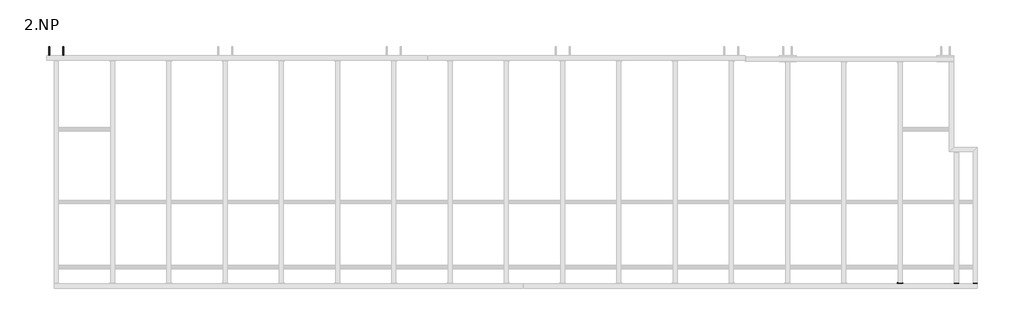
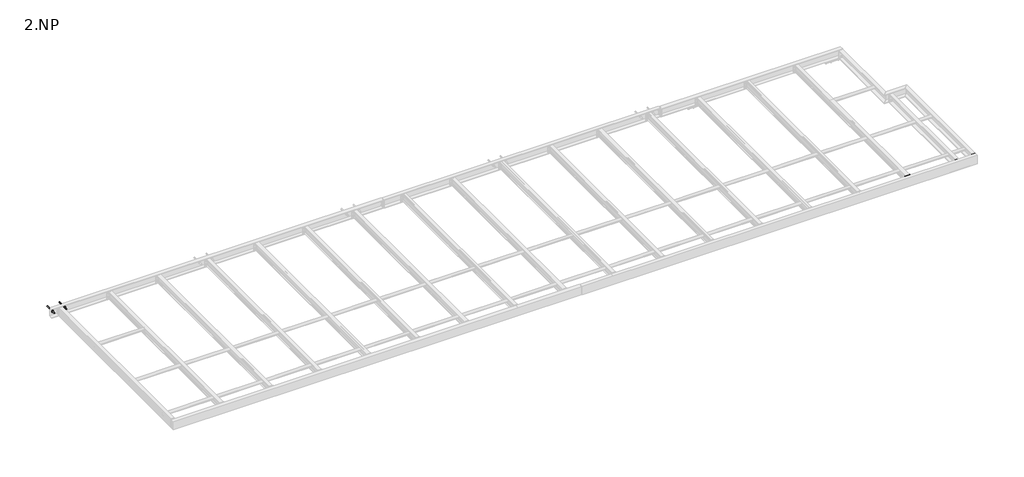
# One storey, part 8 of 18: 14 proxies.
"""IFC4 building model written with IfcOpenShell, lengths in millimetres."""

from ifc_helpers import new_model, si_unit, point, frame, frame_2d, origin, place, context, project, spatial, polyline, circle_curve, trimmed, segment, composite_curve, outline, extrude, element, save

model = new_model("IFC4")

# Units and contexts
model_context = context("Model", 3, world=origin())
ifc_project = project(units=[si_unit("LENGTHUNIT", "METRE", prefix="MILLI")], contexts=[model_context])

# Site, building, storey
site = spatial("IfcSite", under=ifc_project)
building = spatial("IfcBuilding", under=site)
storey = spatial("IfcBuildingStorey", under=building, Name="2.NP", Elevation=3000.0)

# Proxies
placement = place(None, origin())
element("IfcBuildingElementProxy", 1, Name="PLECH", ObjectType="PLECH", at=placement, inside=storey, context=model_context, shape_type="SweptSolid", body=[
    extrude(outline(polyline([(15000.0, -180.0), (15100.0, -180.0), (15100.0, -190.0), (15000.0, -190.0), (15000.0, -180.0)])), frame((0.0, 0.0, 3166.5), z_axis=(0.0, 0.0, 1.0), x_axis=(1.0, 0.0, 0.0)), (0.0, 0.0, 1.0), 127.0),
])
element("IfcBuildingElementProxy", 2, Name="PLECH", ObjectType="PLECH", at=placement, inside=storey, context=model_context, shape_type="SweptSolid", body=[
    extrude(outline(polyline([(16015.0, -180.0), (16090.0, -180.0), (16090.0, -190.0), (16015.0, -190.0), (16015.0, -180.0)])), frame((0.0, 0.0, 3130.0), z_axis=(0.0, 0.0, 1.0), x_axis=(1.0, 0.0, 0.0)), (0.0, 0.0, 1.0), 160.0),
])
element("IfcBuildingElementProxy", 3, Name="PLECH", ObjectType="PLECH", at=placement, inside=storey, context=model_context, shape_type="SweptSolid", body=[
    extrude(outline(polyline([(16350.0, -180.0), (16425.0, -180.0), (16425.0, -190.0), (16350.0, -190.0), (16350.0, -180.0)])), frame((0.0, 0.0, 3130.0), z_axis=(0.0, 0.0, 1.0), x_axis=(1.0, 0.0, 0.0)), (0.0, 0.0, 1.0), 160.0),
])
element("IfcBuildingElementProxy", 4, Name="PLECH", ObjectType="PLECH", at=placement, inside=storey, context=model_context, shape_type="SweptSolid", body=[
    extrude(outline(polyline([(15000.0, -190.0), (15100.0, -190.0), (15100.0, -200.0), (15000.0, -200.0), (15000.0, -190.0)])), frame((0.0, 0.0, 3127.5), z_axis=(0.0, 0.0, 1.0), x_axis=(1.0, 0.0, 0.0)), (0.0, 0.0, 1.0), 166.0000153),
])
element("IfcBuildingElementProxy", 5, Name="PLECH", ObjectType="PLECH", at=placement, inside=storey, context=model_context, shape_type="SweptSolid", body=[
    extrude(outline(composite_curve([segment(polyline([(-200.0, 3289.5), (-200.0, 3130.5), (-249.5, 3130.5)]), True, "CONTINUOUS"), segment(trimmed(circle_curve(frame_2d((-269.5, 3130.5)), 20.0), [point((-249.5, 3130.5))], [point((-269.5, 3150.5))], True, "CARTESIAN"), True, "CONTINUOUS"), segment(polyline([(-269.5, 3150.5), (-269.5, 3269.5)]), True, "CONTINUOUS"), segment(trimmed(circle_curve(frame_2d((-269.5, 3289.5)), 20.0), [point((-269.5, 3269.5))], [point((-249.5, 3289.5))], True, "CARTESIAN"), True, "CONTINUOUS"), segment(polyline([(-249.5, 3289.5), (-200.0, 3289.5)]), True, "CONTINUOUS")], self_intersect=False)), frame((15046.0, 0.0, 0.0), z_axis=(1.0, 0.0, 0.0), x_axis=(0.0, 1.0, 0.0)), (0.0, 0.0, 1.0), 8.0),
])
element("IfcBuildingElementProxy", 6, Name="PLECH", ObjectType="PLECH", at=placement, inside=storey, context=model_context, shape_type="SweptSolid", body=[
    extrude(outline(polyline([(16015.0, -190.0), (16090.0, -190.0), (16090.0, -200.0), (16015.0, -200.0), (16015.0, -190.0)])), frame((0.0, 0.0, 3130.0), z_axis=(0.0, 0.0, 1.0), x_axis=(1.0, 0.0, 0.0)), (0.0, 0.0, 1.0), 160.0),
])
element("IfcBuildingElementProxy", 7, Name="PLECH", ObjectType="PLECH", at=placement, inside=storey, context=model_context, shape_type="SweptSolid", body=[
    extrude(outline(composite_curve([segment(polyline([(-200.0, 3289.5), (-200.0, 3130.5), (-249.5, 3130.5)]), True, "CONTINUOUS"), segment(trimmed(circle_curve(frame_2d((-269.5, 3130.5)), 20.0), [point((-249.5, 3130.5))], [point((-269.5, 3150.5))], True, "CARTESIAN"), True, "CONTINUOUS"), segment(polyline([(-269.5, 3150.5), (-269.5, 3269.5)]), True, "CONTINUOUS"), segment(trimmed(circle_curve(frame_2d((-269.5, 3289.5)), 20.0), [point((-269.5, 3269.5))], [point((-249.5, 3289.5))], True, "CARTESIAN"), True, "CONTINUOUS"), segment(polyline([(-249.5, 3289.5), (-200.0, 3289.5)]), True, "CONTINUOUS")], self_intersect=False)), frame((16076.5, 0.0, 0.0), z_axis=(1.0, 0.0, 0.0), x_axis=(0.0, 1.0, 0.0)), (0.0, 0.0, 1.0), 8.0),
])
element("IfcBuildingElementProxy", 8, Name="PLECH", ObjectType="PLECH", at=placement, inside=storey, context=model_context, shape_type="SweptSolid", body=[
    extrude(outline(polyline([(16350.0, -190.0), (16425.0, -190.0), (16425.0, -200.0), (16350.0, -200.0), (16350.0, -190.0)])), frame((0.0, 0.0, 3130.0), z_axis=(0.0, 0.0, 1.0), x_axis=(1.0, 0.0, 0.0)), (0.0, 0.0, 1.0), 160.0),
])
element("IfcBuildingElementProxy", 9, Name="PLECH", ObjectType="PLECH", at=placement, inside=storey, context=model_context, shape_type="SweptSolid", body=[
    extrude(outline(composite_curve([segment(polyline([(-200.0, 3289.5), (-200.0, 3130.5), (-249.5, 3130.5)]), True, "CONTINUOUS"), segment(trimmed(circle_curve(frame_2d((-269.5, 3130.5)), 20.0), [point((-249.5, 3130.5))], [point((-269.5, 3150.5))], True, "CARTESIAN"), True, "CONTINUOUS"), segment(polyline([(-269.5, 3150.5), (-269.5, 3269.5)]), True, "CONTINUOUS"), segment(trimmed(circle_curve(frame_2d((-269.5, 3289.5)), 20.0), [point((-269.5, 3269.5))], [point((-249.5, 3289.5))], True, "CARTESIAN"), True, "CONTINUOUS"), segment(polyline([(-249.5, 3289.5), (-200.0, 3289.5)]), True, "CONTINUOUS")], self_intersect=False)), frame((16411.5, 0.0, 0.0), z_axis=(1.0, 0.0, 0.0), x_axis=(0.0, 1.0, 0.0)), (0.0, 0.0, 1.0), 8.0),
])
element("IfcBuildingElementProxy", 10, Name="Bolt assembly", ObjectType="Bolt assembly", at=placement, inside=storey, context=model_context, shape_type="SweptSolid", body=[
    extrude(outline(polyline([(3210.0, -65.1850454), (3218.5, -70.0925227), (3218.5, -79.9074773), (3210.0, -84.8149546), (3201.5, -79.9074773), (3201.5, -70.0925227), (3210.0, -65.1850454)])), frame((0.0, 3860.0, 0.0), z_axis=(0.0, 1.0, 0.0), x_axis=(0.0, 0.0, 1.0)), (0.0, 0.0, 1.0), 168.0),
    extrude(outline(composite_curve([segment(trimmed(circle_curve(frame_2d((3210.0, -75.0)), 10.0), [point((3210.0, -65.0))], [point((3210.0, -85.0))], False, "CARTESIAN"), True, "CONTINUOUS"), segment(trimmed(circle_curve(frame_2d((3210.0, -75.0)), 10.0), [point((3210.0, -85.0))], [point((3210.0, -65.0))], False, "CARTESIAN"), True, "CONTINUOUS")], self_intersect=False)), frame((0.0, 3788.0, 0.0), z_axis=(0.0, 1.0, 0.0), x_axis=(0.0, 0.0, 1.0)), (0.0, 0.0, 1.0), 72.0),
    extrude(outline(composite_curve([segment(trimmed(circle_curve(frame_2d((3210.0, -75.0)), 18.5), [point((3210.0, -56.5))], [point((3210.0, -93.5))], False, "CARTESIAN"), True, "CONTINUOUS"), segment(trimmed(circle_curve(frame_2d((3210.0, -75.0)), 18.5), [point((3210.0, -93.5))], [point((3210.0, -56.5))], False, "CARTESIAN"), True, "CONTINUOUS")], self_intersect=False)), frame((0.0, 3851.5, 0.0), z_axis=(0.0, 1.0, 0.0), x_axis=(0.0, 0.0, 1.0)), (0.0, 0.0, 1.0), 3.0),
    extrude(outline(polyline([(3210.0, -57.6794919), (3225.0, -66.339746), (3225.0, -83.660254), (3210.0, -92.3205081), (3195.0, -83.660254), (3195.0, -66.339746), (3210.0, -57.6794919)])), frame((0.0, 3835.5, 0.0), z_axis=(0.0, 1.0, 0.0), x_axis=(0.0, 0.0, 1.0)), (0.0, 0.0, 1.0), 16.0),
    extrude(outline(composite_curve([segment(trimmed(circle_curve(frame_2d((3210.0, -75.0)), 11.0), [point((3210.0, -64.0))], [point((3210.0, -86.0))], False, "CARTESIAN"), True, "CONTINUOUS"), segment(trimmed(circle_curve(frame_2d((3210.0, -75.0)), 11.0), [point((3210.0, -86.0))], [point((3210.0, -64.0))], False, "CARTESIAN"), True, "CONTINUOUS")], self_intersect=False)), frame((0.0, 3854.4, 0.0), z_axis=(0.0, 1.0, 0.0), x_axis=(0.0, 0.0, 1.0)), (0.0, 0.0, 1.0), 5.6),
    extrude(outline(polyline([(3210.0, 184.8149546), (3218.5, 179.9074773), (3218.5, 170.0925227), (3210.0, 165.1850454), (3201.5, 170.0925227), (3201.5, 179.9074773), (3210.0, 184.8149546)])), frame((0.0, 3860.0, 0.0), z_axis=(0.0, 1.0, 0.0), x_axis=(0.0, 0.0, 1.0)), (0.0, 0.0, 1.0), 168.0),
    extrude(outline(composite_curve([segment(trimmed(circle_curve(frame_2d((3210.0, 175.0)), 10.0), [point((3210.0, 185.0))], [point((3210.0, 165.0))], False, "CARTESIAN"), True, "CONTINUOUS"), segment(trimmed(circle_curve(frame_2d((3210.0, 175.0)), 10.0), [point((3210.0, 165.0))], [point((3210.0, 185.0))], False, "CARTESIAN"), True, "CONTINUOUS")], self_intersect=False)), frame((0.0, 3788.0, 0.0), z_axis=(0.0, 1.0, 0.0), x_axis=(0.0, 0.0, 1.0)), (0.0, 0.0, 1.0), 72.0),
    extrude(outline(composite_curve([segment(trimmed(circle_curve(frame_2d((3210.0, 175.0)), 18.5), [point((3210.0, 193.5))], [point((3210.0, 156.5))], False, "CARTESIAN"), True, "CONTINUOUS"), segment(trimmed(circle_curve(frame_2d((3210.0, 175.0)), 18.5), [point((3210.0, 156.5))], [point((3210.0, 193.5))], False, "CARTESIAN"), True, "CONTINUOUS")], self_intersect=False)), frame((0.0, 3851.5, 0.0), z_axis=(0.0, 1.0, 0.0), x_axis=(0.0, 0.0, 1.0)), (0.0, 0.0, 1.0), 3.0),
    extrude(outline(polyline([(3210.0, 192.3205081), (3225.0, 183.660254), (3225.0, 166.339746), (3210.0, 157.6794919), (3195.0, 166.339746), (3195.0, 183.660254), (3210.0, 192.3205081)])), frame((0.0, 3835.5, 0.0), z_axis=(0.0, 1.0, 0.0), x_axis=(0.0, 0.0, 1.0)), (0.0, 0.0, 1.0), 16.0),
    extrude(outline(composite_curve([segment(trimmed(circle_curve(frame_2d((3210.0, 175.0)), 11.0), [point((3210.0, 186.0))], [point((3210.0, 164.0))], False, "CARTESIAN"), True, "CONTINUOUS"), segment(trimmed(circle_curve(frame_2d((3210.0, 175.0)), 11.0), [point((3210.0, 164.0))], [point((3210.0, 186.0))], False, "CARTESIAN"), True, "CONTINUOUS")], self_intersect=False)), frame((0.0, 3854.4, 0.0), z_axis=(0.0, 1.0, 0.0), x_axis=(0.0, 0.0, 1.0)), (0.0, 0.0, 1.0), 5.6),
])
element("IfcBuildingElementProxy", 11, Name="Bolt assembly", ObjectType="Bolt assembly", at=placement, inside=storey, context=model_context, shape_type="SweptSolid", body=[
    extrude(outline(composite_curve([segment(trimmed(circle_curve(frame_2d((3260.0, 15020.0)), 6.5), [point((3260.0, 15026.5))], [point((3260.0, 15013.5))], False, "CARTESIAN"), True, "CONTINUOUS"), segment(trimmed(circle_curve(frame_2d((3260.0, 15020.0)), 6.5), [point((3260.0, 15013.5))], [point((3260.0, 15026.5))], False, "CARTESIAN"), True, "CONTINUOUS")], self_intersect=False)), frame((0.0, -199.9, 0.0), z_axis=(0.0, 1.0, 0.0), x_axis=(0.0, 0.0, 1.0)), (0.0, 0.0, 1.0), 10.0),
    extrude(outline(polyline([(3260.0, 15030.9696551), (3269.5, 15025.4848276), (3269.5, 15014.5151724), (3260.0, 15009.0303449), (3250.5, 15014.5151724), (3250.5, 15025.4848276), (3260.0, 15030.9696551)])), frame((0.0, -210.0, 0.0), z_axis=(0.0, 1.0, 0.0), x_axis=(0.0, 0.0, 1.0)), (0.0, 0.0, 1.0), 7.5),
    extrude(outline(composite_curve([segment(trimmed(circle_curve(frame_2d((3260.0, 15020.0)), 6.0), [point((3260.0, 15026.0))], [point((3260.0, 15014.0))], False, "CARTESIAN"), True, "CONTINUOUS"), segment(trimmed(circle_curve(frame_2d((3260.0, 15020.0)), 6.0), [point((3260.0, 15014.0))], [point((3260.0, 15026.0))], False, "CARTESIAN"), True, "CONTINUOUS")], self_intersect=False)), frame((0.0, -202.5, 0.0), z_axis=(0.0, 1.0, 0.0), x_axis=(0.0, 0.0, 1.0)), (0.0, 0.0, 1.0), 40.0),
    extrude(outline(composite_curve([segment(trimmed(circle_curve(frame_2d((3260.0, 15020.0)), 12.0), [point((3260.0, 15032.0))], [point((3260.0, 15008.0))], False, "CARTESIAN"), True, "CONTINUOUS"), segment(trimmed(circle_curve(frame_2d((3260.0, 15020.0)), 12.0), [point((3260.0, 15008.0))], [point((3260.0, 15032.0))], False, "CARTESIAN"), True, "CONTINUOUS")], self_intersect=False)), frame((0.0, -202.5, 0.0), z_axis=(0.0, 1.0, 0.0), x_axis=(0.0, 0.0, 1.0)), (0.0, 0.0, 1.0), 2.5),
    extrude(outline(composite_curve([segment(trimmed(circle_curve(frame_2d((3260.0, 15020.0)), 12.0), [point((3260.0, 15032.0))], [point((3260.0, 15008.0))], False, "CARTESIAN"), True, "CONTINUOUS"), segment(trimmed(circle_curve(frame_2d((3260.0, 15020.0)), 12.0), [point((3260.0, 15008.0))], [point((3260.0, 15032.0))], False, "CARTESIAN"), True, "CONTINUOUS")], self_intersect=False)), frame((0.0, -180.0, 0.0), z_axis=(0.0, 1.0, 0.0), x_axis=(0.0, 0.0, 1.0)), (0.0, 0.0, 1.0), 2.5),
    extrude(outline(polyline([(3260.0, 15030.9696551), (3269.5, 15025.4848276), (3269.5, 15014.5151724), (3260.0, 15009.0303449), (3250.5, 15014.5151724), (3250.5, 15025.4848276), (3260.0, 15030.9696551)])), frame((0.0, -177.5, 0.0), z_axis=(0.0, 1.0, 0.0), x_axis=(0.0, 0.0, 1.0)), (0.0, 0.0, 1.0), 10.0),
    extrude(outline(composite_curve([segment(trimmed(circle_curve(frame_2d((3260.0, 15020.0)), 6.5), [point((3260.0, 15026.5))], [point((3260.0, 15013.5))], False, "CARTESIAN"), True, "CONTINUOUS"), segment(trimmed(circle_curve(frame_2d((3260.0, 15020.0)), 6.5), [point((3260.0, 15013.5))], [point((3260.0, 15026.5))], False, "CARTESIAN"), True, "CONTINUOUS")], self_intersect=False)), frame((0.0, -190.1, 0.0), z_axis=(0.0, 1.0, 0.0), x_axis=(0.0, 0.0, 1.0)), (0.0, 0.0, 1.0), 10.1),
    extrude(outline(composite_curve([segment(trimmed(circle_curve(frame_2d((3260.0, 15080.0)), 6.5), [point((3260.0, 15086.5))], [point((3260.0, 15073.5))], False, "CARTESIAN"), True, "CONTINUOUS"), segment(trimmed(circle_curve(frame_2d((3260.0, 15080.0)), 6.5), [point((3260.0, 15073.5))], [point((3260.0, 15086.5))], False, "CARTESIAN"), True, "CONTINUOUS")], self_intersect=False)), frame((0.0, -199.9, 0.0), z_axis=(0.0, 1.0, 0.0), x_axis=(0.0, 0.0, 1.0)), (0.0, 0.0, 1.0), 10.0),
    extrude(outline(polyline([(3260.0, 15090.9696551), (3269.5, 15085.4848276), (3269.5, 15074.5151724), (3260.0, 15069.0303449), (3250.5, 15074.5151724), (3250.5, 15085.4848276), (3260.0, 15090.9696551)])), frame((0.0, -210.0, 0.0), z_axis=(0.0, 1.0, 0.0), x_axis=(0.0, 0.0, 1.0)), (0.0, 0.0, 1.0), 7.5),
    extrude(outline(composite_curve([segment(trimmed(circle_curve(frame_2d((3260.0, 15080.0)), 6.0), [point((3260.0, 15086.0))], [point((3260.0, 15074.0))], False, "CARTESIAN"), True, "CONTINUOUS"), segment(trimmed(circle_curve(frame_2d((3260.0, 15080.0)), 6.0), [point((3260.0, 15074.0))], [point((3260.0, 15086.0))], False, "CARTESIAN"), True, "CONTINUOUS")], self_intersect=False)), frame((0.0, -202.5, 0.0), z_axis=(0.0, 1.0, 0.0), x_axis=(0.0, 0.0, 1.0)), (0.0, 0.0, 1.0), 40.0),
    extrude(outline(composite_curve([segment(trimmed(circle_curve(frame_2d((3260.0, 15080.0)), 12.0), [point((3260.0, 15092.0))], [point((3260.0, 15068.0))], False, "CARTESIAN"), True, "CONTINUOUS"), segment(trimmed(circle_curve(frame_2d((3260.0, 15080.0)), 12.0), [point((3260.0, 15068.0))], [point((3260.0, 15092.0))], False, "CARTESIAN"), True, "CONTINUOUS")], self_intersect=False)), frame((0.0, -202.5, 0.0), z_axis=(0.0, 1.0, 0.0), x_axis=(0.0, 0.0, 1.0)), (0.0, 0.0, 1.0), 2.5),
    extrude(outline(composite_curve([segment(trimmed(circle_curve(frame_2d((3260.0, 15080.0)), 12.0), [point((3260.0, 15092.0))], [point((3260.0, 15068.0))], False, "CARTESIAN"), True, "CONTINUOUS"), segment(trimmed(circle_curve(frame_2d((3260.0, 15080.0)), 12.0), [point((3260.0, 15068.0))], [point((3260.0, 15092.0))], False, "CARTESIAN"), True, "CONTINUOUS")], self_intersect=False)), frame((0.0, -180.0, 0.0), z_axis=(0.0, 1.0, 0.0), x_axis=(0.0, 0.0, 1.0)), (0.0, 0.0, 1.0), 2.5),
    extrude(outline(polyline([(3260.0, 15090.9696551), (3269.5, 15085.4848276), (3269.5, 15074.5151724), (3260.0, 15069.0303449), (3250.5, 15074.5151724), (3250.5, 15085.4848276), (3260.0, 15090.9696551)])), frame((0.0, -177.5, 0.0), z_axis=(0.0, 1.0, 0.0), x_axis=(0.0, 0.0, 1.0)), (0.0, 0.0, 1.0), 10.0),
    extrude(outline(composite_curve([segment(trimmed(circle_curve(frame_2d((3260.0, 15080.0)), 6.5), [point((3260.0, 15086.5))], [point((3260.0, 15073.5))], False, "CARTESIAN"), True, "CONTINUOUS"), segment(trimmed(circle_curve(frame_2d((3260.0, 15080.0)), 6.5), [point((3260.0, 15073.5))], [point((3260.0, 15086.5))], False, "CARTESIAN"), True, "CONTINUOUS")], self_intersect=False)), frame((0.0, -190.1, 0.0), z_axis=(0.0, 1.0, 0.0), x_axis=(0.0, 0.0, 1.0)), (0.0, 0.0, 1.0), 10.1),
    extrude(outline(composite_curve([segment(trimmed(circle_curve(frame_2d((3200.0, 15020.0)), 6.5), [point((3200.0, 15026.5))], [point((3200.0, 15013.5))], False, "CARTESIAN"), True, "CONTINUOUS"), segment(trimmed(circle_curve(frame_2d((3200.0, 15020.0)), 6.5), [point((3200.0, 15013.5))], [point((3200.0, 15026.5))], False, "CARTESIAN"), True, "CONTINUOUS")], self_intersect=False)), frame((0.0, -199.9, 0.0), z_axis=(0.0, 1.0, 0.0), x_axis=(0.0, 0.0, 1.0)), (0.0, 0.0, 1.0), 10.0),
    extrude(outline(polyline([(3200.0, 15030.9696551), (3209.5, 15025.4848276), (3209.5, 15014.5151724), (3200.0, 15009.0303449), (3190.5, 15014.5151724), (3190.5, 15025.4848276), (3200.0, 15030.9696551)])), frame((0.0, -210.0, 0.0), z_axis=(0.0, 1.0, 0.0), x_axis=(0.0, 0.0, 1.0)), (0.0, 0.0, 1.0), 7.5),
    extrude(outline(composite_curve([segment(trimmed(circle_curve(frame_2d((3200.0, 15020.0)), 6.0), [point((3200.0, 15026.0))], [point((3200.0, 15014.0))], False, "CARTESIAN"), True, "CONTINUOUS"), segment(trimmed(circle_curve(frame_2d((3200.0, 15020.0)), 6.0), [point((3200.0, 15014.0))], [point((3200.0, 15026.0))], False, "CARTESIAN"), True, "CONTINUOUS")], self_intersect=False)), frame((0.0, -202.5, 0.0), z_axis=(0.0, 1.0, 0.0), x_axis=(0.0, 0.0, 1.0)), (0.0, 0.0, 1.0), 40.0),
    extrude(outline(composite_curve([segment(trimmed(circle_curve(frame_2d((3200.0, 15020.0)), 12.0), [point((3200.0, 15032.0))], [point((3200.0, 15008.0))], False, "CARTESIAN"), True, "CONTINUOUS"), segment(trimmed(circle_curve(frame_2d((3200.0, 15020.0)), 12.0), [point((3200.0, 15008.0))], [point((3200.0, 15032.0))], False, "CARTESIAN"), True, "CONTINUOUS")], self_intersect=False)), frame((0.0, -202.5, 0.0), z_axis=(0.0, 1.0, 0.0), x_axis=(0.0, 0.0, 1.0)), (0.0, 0.0, 1.0), 2.5),
    extrude(outline(composite_curve([segment(trimmed(circle_curve(frame_2d((3200.0, 15020.0)), 12.0), [point((3200.0, 15032.0))], [point((3200.0, 15008.0))], False, "CARTESIAN"), True, "CONTINUOUS"), segment(trimmed(circle_curve(frame_2d((3200.0, 15020.0)), 12.0), [point((3200.0, 15008.0))], [point((3200.0, 15032.0))], False, "CARTESIAN"), True, "CONTINUOUS")], self_intersect=False)), frame((0.0, -180.0, 0.0), z_axis=(0.0, 1.0, 0.0), x_axis=(0.0, 0.0, 1.0)), (0.0, 0.0, 1.0), 2.5),
    extrude(outline(polyline([(3200.0, 15030.9696551), (3209.5, 15025.4848276), (3209.5, 15014.5151724), (3200.0, 15009.0303449), (3190.5, 15014.5151724), (3190.5, 15025.4848276), (3200.0, 15030.9696551)])), frame((0.0, -177.5, 0.0), z_axis=(0.0, 1.0, 0.0), x_axis=(0.0, 0.0, 1.0)), (0.0, 0.0, 1.0), 10.0),
    extrude(outline(composite_curve([segment(trimmed(circle_curve(frame_2d((3200.0, 15020.0)), 6.5), [point((3200.0, 15026.5))], [point((3200.0, 15013.5))], False, "CARTESIAN"), True, "CONTINUOUS"), segment(trimmed(circle_curve(frame_2d((3200.0, 15020.0)), 6.5), [point((3200.0, 15013.5))], [point((3200.0, 15026.5))], False, "CARTESIAN"), True, "CONTINUOUS")], self_intersect=False)), frame((0.0, -190.1, 0.0), z_axis=(0.0, 1.0, 0.0), x_axis=(0.0, 0.0, 1.0)), (0.0, 0.0, 1.0), 10.1),
    extrude(outline(composite_curve([segment(trimmed(circle_curve(frame_2d((3200.0, 15080.0)), 6.5), [point((3200.0, 15086.5))], [point((3200.0, 15073.5))], False, "CARTESIAN"), True, "CONTINUOUS"), segment(trimmed(circle_curve(frame_2d((3200.0, 15080.0)), 6.5), [point((3200.0, 15073.5))], [point((3200.0, 15086.5))], False, "CARTESIAN"), True, "CONTINUOUS")], self_intersect=False)), frame((0.0, -199.9, 0.0), z_axis=(0.0, 1.0, 0.0), x_axis=(0.0, 0.0, 1.0)), (0.0, 0.0, 1.0), 10.0),
    extrude(outline(polyline([(3200.0, 15090.9696551), (3209.5, 15085.4848276), (3209.5, 15074.5151724), (3200.0, 15069.0303449), (3190.5, 15074.5151724), (3190.5, 15085.4848276), (3200.0, 15090.9696551)])), frame((0.0, -210.0, 0.0), z_axis=(0.0, 1.0, 0.0), x_axis=(0.0, 0.0, 1.0)), (0.0, 0.0, 1.0), 7.5),
    extrude(outline(composite_curve([segment(trimmed(circle_curve(frame_2d((3200.0, 15080.0)), 6.0), [point((3200.0, 15086.0))], [point((3200.0, 15074.0))], False, "CARTESIAN"), True, "CONTINUOUS"), segment(trimmed(circle_curve(frame_2d((3200.0, 15080.0)), 6.0), [point((3200.0, 15074.0))], [point((3200.0, 15086.0))], False, "CARTESIAN"), True, "CONTINUOUS")], self_intersect=False)), frame((0.0, -202.5, 0.0), z_axis=(0.0, 1.0, 0.0), x_axis=(0.0, 0.0, 1.0)), (0.0, 0.0, 1.0), 40.0),
    extrude(outline(composite_curve([segment(trimmed(circle_curve(frame_2d((3200.0, 15080.0)), 12.0), [point((3200.0, 15092.0))], [point((3200.0, 15068.0))], False, "CARTESIAN"), True, "CONTINUOUS"), segment(trimmed(circle_curve(frame_2d((3200.0, 15080.0)), 12.0), [point((3200.0, 15068.0))], [point((3200.0, 15092.0))], False, "CARTESIAN"), True, "CONTINUOUS")], self_intersect=False)), frame((0.0, -202.5, 0.0), z_axis=(0.0, 1.0, 0.0), x_axis=(0.0, 0.0, 1.0)), (0.0, 0.0, 1.0), 2.5),
    extrude(outline(composite_curve([segment(trimmed(circle_curve(frame_2d((3200.0, 15080.0)), 12.0), [point((3200.0, 15092.0))], [point((3200.0, 15068.0))], False, "CARTESIAN"), True, "CONTINUOUS"), segment(trimmed(circle_curve(frame_2d((3200.0, 15080.0)), 12.0), [point((3200.0, 15068.0))], [point((3200.0, 15092.0))], False, "CARTESIAN"), True, "CONTINUOUS")], self_intersect=False)), frame((0.0, -180.0, 0.0), z_axis=(0.0, 1.0, 0.0), x_axis=(0.0, 0.0, 1.0)), (0.0, 0.0, 1.0), 2.5),
    extrude(outline(polyline([(3200.0, 15090.9696551), (3209.5, 15085.4848276), (3209.5, 15074.5151724), (3200.0, 15069.0303449), (3190.5, 15074.5151724), (3190.5, 15085.4848276), (3200.0, 15090.9696551)])), frame((0.0, -177.5, 0.0), z_axis=(0.0, 1.0, 0.0), x_axis=(0.0, 0.0, 1.0)), (0.0, 0.0, 1.0), 10.0),
    extrude(outline(composite_curve([segment(trimmed(circle_curve(frame_2d((3200.0, 15080.0)), 6.5), [point((3200.0, 15086.5))], [point((3200.0, 15073.5))], False, "CARTESIAN"), True, "CONTINUOUS"), segment(trimmed(circle_curve(frame_2d((3200.0, 15080.0)), 6.5), [point((3200.0, 15073.5))], [point((3200.0, 15086.5))], False, "CARTESIAN"), True, "CONTINUOUS")], self_intersect=False)), frame((0.0, -190.1, 0.0), z_axis=(0.0, 1.0, 0.0), x_axis=(0.0, 0.0, 1.0)), (0.0, 0.0, 1.0), 10.1),
])
element("IfcBuildingElementProxy", 12, Name="Bolt assembly", ObjectType="Bolt assembly", at=placement, inside=storey, context=model_context, shape_type="SweptSolid", body=[
    extrude(outline(composite_curve([segment(trimmed(circle_curve(frame_2d((3170.0, 16050.0)), 9.0), [point((3170.0, 16059.0))], [point((3170.0, 16041.0))], False, "CARTESIAN"), True, "CONTINUOUS"), segment(trimmed(circle_curve(frame_2d((3170.0, 16050.0)), 9.0), [point((3170.0, 16041.0))], [point((3170.0, 16059.0))], False, "CARTESIAN"), True, "CONTINUOUS")], self_intersect=False)), frame((0.0, -199.9, 0.0), z_axis=(0.0, 1.0, 0.0), x_axis=(0.0, 0.0, 1.0)), (0.0, 0.0, 1.0), 10.0),
    extrude(outline(polyline([(3170.0, 16063.8564065), (3182.0, 16056.9282032), (3182.0, 16043.0717968), (3170.0, 16036.1435935), (3158.0, 16043.0717968), (3158.0, 16056.9282032), (3170.0, 16063.8564065)])), frame((0.0, -213.0, 0.0), z_axis=(0.0, 1.0, 0.0), x_axis=(0.0, 0.0, 1.0)), (0.0, 0.0, 1.0), 10.0),
    extrude(outline(composite_curve([segment(trimmed(circle_curve(frame_2d((3170.0, 16050.0)), 8.0), [point((3170.0, 16058.0))], [point((3170.0, 16042.0))], False, "CARTESIAN"), True, "CONTINUOUS"), segment(trimmed(circle_curve(frame_2d((3170.0, 16050.0)), 8.0), [point((3170.0, 16042.0))], [point((3170.0, 16058.0))], False, "CARTESIAN"), True, "CONTINUOUS")], self_intersect=False)), frame((0.0, -203.0, 0.0), z_axis=(0.0, 1.0, 0.0), x_axis=(0.0, 0.0, 1.0)), (0.0, 0.0, 1.0), 50.0),
    extrude(outline(composite_curve([segment(trimmed(circle_curve(frame_2d((3170.0, 16050.0)), 15.0), [point((3170.0, 16065.0))], [point((3170.0, 16035.0))], False, "CARTESIAN"), True, "CONTINUOUS"), segment(trimmed(circle_curve(frame_2d((3170.0, 16050.0)), 15.0), [point((3170.0, 16035.0))], [point((3170.0, 16065.0))], False, "CARTESIAN"), True, "CONTINUOUS")], self_intersect=False)), frame((0.0, -203.0, 0.0), z_axis=(0.0, 1.0, 0.0), x_axis=(0.0, 0.0, 1.0)), (0.0, 0.0, 1.0), 3.0),
    extrude(outline(composite_curve([segment(trimmed(circle_curve(frame_2d((3170.0, 16050.0)), 15.0), [point((3170.0, 16065.0))], [point((3170.0, 16035.0))], False, "CARTESIAN"), True, "CONTINUOUS"), segment(trimmed(circle_curve(frame_2d((3170.0, 16050.0)), 15.0), [point((3170.0, 16035.0))], [point((3170.0, 16065.0))], False, "CARTESIAN"), True, "CONTINUOUS")], self_intersect=False)), frame((0.0, -180.0, 0.0), z_axis=(0.0, 1.0, 0.0), x_axis=(0.0, 0.0, 1.0)), (0.0, 0.0, 1.0), 3.0),
    extrude(outline(polyline([(3170.0, 16065.4441197), (3183.375, 16057.7220599), (3183.375, 16042.2779401), (3170.0, 16034.5558803), (3156.625, 16042.2779401), (3156.625, 16057.7220599), (3170.0, 16065.4441197)])), frame((0.0, -177.0, 0.0), z_axis=(0.0, 1.0, 0.0), x_axis=(0.0, 0.0, 1.0)), (0.0, 0.0, 1.0), 13.0),
    extrude(outline(composite_curve([segment(trimmed(circle_curve(frame_2d((3170.0, 16050.0)), 9.0), [point((3170.0, 16059.0))], [point((3170.0, 16041.0))], False, "CARTESIAN"), True, "CONTINUOUS"), segment(trimmed(circle_curve(frame_2d((3170.0, 16050.0)), 9.0), [point((3170.0, 16041.0))], [point((3170.0, 16059.0))], False, "CARTESIAN"), True, "CONTINUOUS")], self_intersect=False)), frame((0.0, -190.1, 0.0), z_axis=(0.0, 1.0, 0.0), x_axis=(0.0, 0.0, 1.0)), (0.0, 0.0, 1.0), 10.1),
    extrude(outline(composite_curve([segment(trimmed(circle_curve(frame_2d((3250.0, 16050.0)), 9.0), [point((3250.0, 16059.0))], [point((3250.0, 16041.0))], False, "CARTESIAN"), True, "CONTINUOUS"), segment(trimmed(circle_curve(frame_2d((3250.0, 16050.0)), 9.0), [point((3250.0, 16041.0))], [point((3250.0, 16059.0))], False, "CARTESIAN"), True, "CONTINUOUS")], self_intersect=False)), frame((0.0, -199.9, 0.0), z_axis=(0.0, 1.0, 0.0), x_axis=(0.0, 0.0, 1.0)), (0.0, 0.0, 1.0), 10.0),
    extrude(outline(polyline([(3250.0, 16063.8564065), (3262.0, 16056.9282032), (3262.0, 16043.0717968), (3250.0, 16036.1435935), (3238.0, 16043.0717968), (3238.0, 16056.9282032), (3250.0, 16063.8564065)])), frame((0.0, -213.0, 0.0), z_axis=(0.0, 1.0, 0.0), x_axis=(0.0, 0.0, 1.0)), (0.0, 0.0, 1.0), 10.0),
    extrude(outline(composite_curve([segment(trimmed(circle_curve(frame_2d((3250.0, 16050.0)), 8.0), [point((3250.0, 16058.0))], [point((3250.0, 16042.0))], False, "CARTESIAN"), True, "CONTINUOUS"), segment(trimmed(circle_curve(frame_2d((3250.0, 16050.0)), 8.0), [point((3250.0, 16042.0))], [point((3250.0, 16058.0))], False, "CARTESIAN"), True, "CONTINUOUS")], self_intersect=False)), frame((0.0, -203.0, 0.0), z_axis=(0.0, 1.0, 0.0), x_axis=(0.0, 0.0, 1.0)), (0.0, 0.0, 1.0), 50.0),
    extrude(outline(composite_curve([segment(trimmed(circle_curve(frame_2d((3250.0, 16050.0)), 15.0), [point((3250.0, 16065.0))], [point((3250.0, 16035.0))], False, "CARTESIAN"), True, "CONTINUOUS"), segment(trimmed(circle_curve(frame_2d((3250.0, 16050.0)), 15.0), [point((3250.0, 16035.0))], [point((3250.0, 16065.0))], False, "CARTESIAN"), True, "CONTINUOUS")], self_intersect=False)), frame((0.0, -203.0, 0.0), z_axis=(0.0, 1.0, 0.0), x_axis=(0.0, 0.0, 1.0)), (0.0, 0.0, 1.0), 3.0),
    extrude(outline(composite_curve([segment(trimmed(circle_curve(frame_2d((3250.0, 16050.0)), 15.0), [point((3250.0, 16065.0))], [point((3250.0, 16035.0))], False, "CARTESIAN"), True, "CONTINUOUS"), segment(trimmed(circle_curve(frame_2d((3250.0, 16050.0)), 15.0), [point((3250.0, 16035.0))], [point((3250.0, 16065.0))], False, "CARTESIAN"), True, "CONTINUOUS")], self_intersect=False)), frame((0.0, -180.0, 0.0), z_axis=(0.0, 1.0, 0.0), x_axis=(0.0, 0.0, 1.0)), (0.0, 0.0, 1.0), 3.0),
    extrude(outline(polyline([(3250.0, 16065.4441197), (3263.375, 16057.7220599), (3263.375, 16042.2779401), (3250.0, 16034.5558803), (3236.625, 16042.2779401), (3236.625, 16057.7220599), (3250.0, 16065.4441197)])), frame((0.0, -177.0, 0.0), z_axis=(0.0, 1.0, 0.0), x_axis=(0.0, 0.0, 1.0)), (0.0, 0.0, 1.0), 13.0),
    extrude(outline(composite_curve([segment(trimmed(circle_curve(frame_2d((3250.0, 16050.0)), 9.0), [point((3250.0, 16059.0))], [point((3250.0, 16041.0))], False, "CARTESIAN"), True, "CONTINUOUS"), segment(trimmed(circle_curve(frame_2d((3250.0, 16050.0)), 9.0), [point((3250.0, 16041.0))], [point((3250.0, 16059.0))], False, "CARTESIAN"), True, "CONTINUOUS")], self_intersect=False)), frame((0.0, -190.1, 0.0), z_axis=(0.0, 1.0, 0.0), x_axis=(0.0, 0.0, 1.0)), (0.0, 0.0, 1.0), 10.1),
])
element("IfcBuildingElementProxy", 13, Name="Bolt assembly", ObjectType="Bolt assembly", at=placement, inside=storey, context=model_context, shape_type="SweptSolid", body=[
    extrude(outline(composite_curve([segment(trimmed(circle_curve(frame_2d((3170.0, 16385.0)), 9.0), [point((3170.0, 16394.0))], [point((3170.0, 16376.0))], False, "CARTESIAN"), True, "CONTINUOUS"), segment(trimmed(circle_curve(frame_2d((3170.0, 16385.0)), 9.0), [point((3170.0, 16376.0))], [point((3170.0, 16394.0))], False, "CARTESIAN"), True, "CONTINUOUS")], self_intersect=False)), frame((0.0, -199.9, 0.0), z_axis=(0.0, 1.0, 0.0), x_axis=(0.0, 0.0, 1.0)), (0.0, 0.0, 1.0), 10.0),
    extrude(outline(polyline([(3170.0, 16398.8564065), (3182.0, 16391.9282032), (3182.0, 16378.0717968), (3170.0, 16371.1435935), (3158.0, 16378.0717968), (3158.0, 16391.9282032), (3170.0, 16398.8564065)])), frame((0.0, -213.0, 0.0), z_axis=(0.0, 1.0, 0.0), x_axis=(0.0, 0.0, 1.0)), (0.0, 0.0, 1.0), 10.0),
    extrude(outline(composite_curve([segment(trimmed(circle_curve(frame_2d((3170.0, 16385.0)), 8.0), [point((3170.0, 16393.0))], [point((3170.0, 16377.0))], False, "CARTESIAN"), True, "CONTINUOUS"), segment(trimmed(circle_curve(frame_2d((3170.0, 16385.0)), 8.0), [point((3170.0, 16377.0))], [point((3170.0, 16393.0))], False, "CARTESIAN"), True, "CONTINUOUS")], self_intersect=False)), frame((0.0, -203.0, 0.0), z_axis=(0.0, 1.0, 0.0), x_axis=(0.0, 0.0, 1.0)), (0.0, 0.0, 1.0), 50.0),
    extrude(outline(composite_curve([segment(trimmed(circle_curve(frame_2d((3170.0, 16385.0)), 15.0), [point((3170.0, 16400.0))], [point((3170.0, 16370.0))], False, "CARTESIAN"), True, "CONTINUOUS"), segment(trimmed(circle_curve(frame_2d((3170.0, 16385.0)), 15.0), [point((3170.0, 16370.0))], [point((3170.0, 16400.0))], False, "CARTESIAN"), True, "CONTINUOUS")], self_intersect=False)), frame((0.0, -203.0, 0.0), z_axis=(0.0, 1.0, 0.0), x_axis=(0.0, 0.0, 1.0)), (0.0, 0.0, 1.0), 3.0),
    extrude(outline(composite_curve([segment(trimmed(circle_curve(frame_2d((3170.0, 16385.0)), 15.0), [point((3170.0, 16400.0))], [point((3170.0, 16370.0))], False, "CARTESIAN"), True, "CONTINUOUS"), segment(trimmed(circle_curve(frame_2d((3170.0, 16385.0)), 15.0), [point((3170.0, 16370.0))], [point((3170.0, 16400.0))], False, "CARTESIAN"), True, "CONTINUOUS")], self_intersect=False)), frame((0.0, -180.0, 0.0), z_axis=(0.0, 1.0, 0.0), x_axis=(0.0, 0.0, 1.0)), (0.0, 0.0, 1.0), 3.0),
    extrude(outline(polyline([(3170.0, 16400.4441197), (3183.375, 16392.7220599), (3183.375, 16377.2779401), (3170.0, 16369.5558803), (3156.625, 16377.2779401), (3156.625, 16392.7220599), (3170.0, 16400.4441197)])), frame((0.0, -177.0, 0.0), z_axis=(0.0, 1.0, 0.0), x_axis=(0.0, 0.0, 1.0)), (0.0, 0.0, 1.0), 13.0),
    extrude(outline(composite_curve([segment(trimmed(circle_curve(frame_2d((3170.0, 16385.0)), 9.0), [point((3170.0, 16394.0))], [point((3170.0, 16376.0))], False, "CARTESIAN"), True, "CONTINUOUS"), segment(trimmed(circle_curve(frame_2d((3170.0, 16385.0)), 9.0), [point((3170.0, 16376.0))], [point((3170.0, 16394.0))], False, "CARTESIAN"), True, "CONTINUOUS")], self_intersect=False)), frame((0.0, -190.1, 0.0), z_axis=(0.0, 1.0, 0.0), x_axis=(0.0, 0.0, 1.0)), (0.0, 0.0, 1.0), 10.1),
    extrude(outline(composite_curve([segment(trimmed(circle_curve(frame_2d((3250.0, 16385.0)), 9.0), [point((3250.0, 16394.0))], [point((3250.0, 16376.0))], False, "CARTESIAN"), True, "CONTINUOUS"), segment(trimmed(circle_curve(frame_2d((3250.0, 16385.0)), 9.0), [point((3250.0, 16376.0))], [point((3250.0, 16394.0))], False, "CARTESIAN"), True, "CONTINUOUS")], self_intersect=False)), frame((0.0, -199.9, 0.0), z_axis=(0.0, 1.0, 0.0), x_axis=(0.0, 0.0, 1.0)), (0.0, 0.0, 1.0), 10.0),
    extrude(outline(polyline([(3250.0, 16398.8564065), (3262.0, 16391.9282032), (3262.0, 16378.0717968), (3250.0, 16371.1435935), (3238.0, 16378.0717968), (3238.0, 16391.9282032), (3250.0, 16398.8564065)])), frame((0.0, -213.0, 0.0), z_axis=(0.0, 1.0, 0.0), x_axis=(0.0, 0.0, 1.0)), (0.0, 0.0, 1.0), 10.0),
    extrude(outline(composite_curve([segment(trimmed(circle_curve(frame_2d((3250.0, 16385.0)), 8.0), [point((3250.0, 16393.0))], [point((3250.0, 16377.0))], False, "CARTESIAN"), True, "CONTINUOUS"), segment(trimmed(circle_curve(frame_2d((3250.0, 16385.0)), 8.0), [point((3250.0, 16377.0))], [point((3250.0, 16393.0))], False, "CARTESIAN"), True, "CONTINUOUS")], self_intersect=False)), frame((0.0, -203.0, 0.0), z_axis=(0.0, 1.0, 0.0), x_axis=(0.0, 0.0, 1.0)), (0.0, 0.0, 1.0), 50.0),
    extrude(outline(composite_curve([segment(trimmed(circle_curve(frame_2d((3250.0, 16385.0)), 15.0), [point((3250.0, 16400.0))], [point((3250.0, 16370.0))], False, "CARTESIAN"), True, "CONTINUOUS"), segment(trimmed(circle_curve(frame_2d((3250.0, 16385.0)), 15.0), [point((3250.0, 16370.0))], [point((3250.0, 16400.0))], False, "CARTESIAN"), True, "CONTINUOUS")], self_intersect=False)), frame((0.0, -203.0, 0.0), z_axis=(0.0, 1.0, 0.0), x_axis=(0.0, 0.0, 1.0)), (0.0, 0.0, 1.0), 3.0),
    extrude(outline(composite_curve([segment(trimmed(circle_curve(frame_2d((3250.0, 16385.0)), 15.0), [point((3250.0, 16400.0))], [point((3250.0, 16370.0))], False, "CARTESIAN"), True, "CONTINUOUS"), segment(trimmed(circle_curve(frame_2d((3250.0, 16385.0)), 15.0), [point((3250.0, 16370.0))], [point((3250.0, 16400.0))], False, "CARTESIAN"), True, "CONTINUOUS")], self_intersect=False)), frame((0.0, -180.0, 0.0), z_axis=(0.0, 1.0, 0.0), x_axis=(0.0, 0.0, 1.0)), (0.0, 0.0, 1.0), 3.0),
    extrude(outline(polyline([(3250.0, 16400.4441197), (3263.375, 16392.7220599), (3263.375, 16377.2779401), (3250.0, 16369.5558803), (3236.625, 16377.2779401), (3236.625, 16392.7220599), (3250.0, 16400.4441197)])), frame((0.0, -177.0, 0.0), z_axis=(0.0, 1.0, 0.0), x_axis=(0.0, 0.0, 1.0)), (0.0, 0.0, 1.0), 13.0),
    extrude(outline(composite_curve([segment(trimmed(circle_curve(frame_2d((3250.0, 16385.0)), 9.0), [point((3250.0, 16394.0))], [point((3250.0, 16376.0))], False, "CARTESIAN"), True, "CONTINUOUS"), segment(trimmed(circle_curve(frame_2d((3250.0, 16385.0)), 9.0), [point((3250.0, 16376.0))], [point((3250.0, 16394.0))], False, "CARTESIAN"), True, "CONTINUOUS")], self_intersect=False)), frame((0.0, -190.1, 0.0), z_axis=(0.0, 1.0, 0.0), x_axis=(0.0, 0.0, 1.0)), (0.0, 0.0, 1.0), 10.1),
])
element("IfcBuildingElementProxy", 14, Name="Bolt assembly 1", ObjectType="Bolt assembly 1", at=placement, inside=storey, context=model_context, shape_type="SweptSolid", body=[
    extrude(outline(composite_curve([segment(trimmed(circle_curve(frame_2d((3170.0, 50.0)), 9.0), [point((3170.0, 41.0))], [point((3170.0, 59.0))], False, "CARTESIAN"), True, "CONTINUOUS"), segment(trimmed(circle_curve(frame_2d((3170.0, 50.0)), 9.0), [point((3170.0, 59.0))], [point((3170.0, 41.0))], False, "CARTESIAN"), True, "CONTINUOUS")], self_intersect=False)), frame((0.0, 3774.9, 0.0), z_axis=(0.0, 1.0, 0.0), x_axis=(0.0, 0.0, 1.0)), (0.0, 0.0, 1.0), 10.0),
    extrude(outline(polyline([(3170.0, 36.1435935), (3158.0, 43.0717968), (3158.0, 56.9282032), (3170.0, 63.8564065), (3182.0, 56.9282032), (3182.0, 43.0717968), (3170.0, 36.1435935)])), frame((0.0, 3788.0, 0.0), z_axis=(0.0, 1.0, 0.0), x_axis=(0.0, 0.0, 1.0)), (0.0, 0.0, 1.0), 10.0),
    extrude(outline(composite_curve([segment(trimmed(circle_curve(frame_2d((3170.0, 50.0)), 8.0), [point((3170.0, 42.0))], [point((3170.0, 58.0))], False, "CARTESIAN"), True, "CONTINUOUS"), segment(trimmed(circle_curve(frame_2d((3170.0, 50.0)), 8.0), [point((3170.0, 58.0))], [point((3170.0, 42.0))], False, "CARTESIAN"), True, "CONTINUOUS")], self_intersect=False)), frame((0.0, 3738.0, 0.0), z_axis=(0.0, 1.0, 0.0), x_axis=(0.0, 0.0, 1.0)), (0.0, 0.0, 1.0), 50.0),
    extrude(outline(composite_curve([segment(trimmed(circle_curve(frame_2d((3170.0, 50.0)), 15.0), [point((3170.0, 35.0))], [point((3170.0, 65.0))], False, "CARTESIAN"), True, "CONTINUOUS"), segment(trimmed(circle_curve(frame_2d((3170.0, 50.0)), 15.0), [point((3170.0, 65.0))], [point((3170.0, 35.0))], False, "CARTESIAN"), True, "CONTINUOUS")], self_intersect=False)), frame((0.0, 3785.0, 0.0), z_axis=(0.0, 1.0, 0.0), x_axis=(0.0, 0.0, 1.0)), (0.0, 0.0, 1.0), 3.0),
    extrude(outline(composite_curve([segment(trimmed(circle_curve(frame_2d((3170.0, 50.0)), 15.0), [point((3170.0, 35.0))], [point((3170.0, 65.0))], False, "CARTESIAN"), True, "CONTINUOUS"), segment(trimmed(circle_curve(frame_2d((3170.0, 50.0)), 15.0), [point((3170.0, 65.0))], [point((3170.0, 35.0))], False, "CARTESIAN"), True, "CONTINUOUS")], self_intersect=False)), frame((0.0, 3762.0, 0.0), z_axis=(0.0, 1.0, 0.0), x_axis=(0.0, 0.0, 1.0)), (0.0, 0.0, 1.0), 3.0),
    extrude(outline(polyline([(3170.0, 34.5558803), (3156.625, 42.2779401), (3156.625, 57.7220599), (3170.0, 65.4441197), (3183.375, 57.7220599), (3183.375, 42.2779401), (3170.0, 34.5558803)])), frame((0.0, 3749.0, 0.0), z_axis=(0.0, 1.0, 0.0), x_axis=(0.0, 0.0, 1.0)), (0.0, 0.0, 1.0), 13.0),
    extrude(outline(composite_curve([segment(trimmed(circle_curve(frame_2d((3170.0, 50.0)), 9.0), [point((3170.0, 41.0))], [point((3170.0, 59.0))], False, "CARTESIAN"), True, "CONTINUOUS"), segment(trimmed(circle_curve(frame_2d((3170.0, 50.0)), 9.0), [point((3170.0, 59.0))], [point((3170.0, 41.0))], False, "CARTESIAN"), True, "CONTINUOUS")], self_intersect=False)), frame((0.0, 3765.0, 0.0), z_axis=(0.0, 1.0, 0.0), x_axis=(0.0, 0.0, 1.0)), (0.0, 0.0, 1.0), 10.1),
    extrude(outline(composite_curve([segment(trimmed(circle_curve(frame_2d((3250.0, 50.0)), 9.0), [point((3250.0, 41.0))], [point((3250.0, 59.0))], False, "CARTESIAN"), True, "CONTINUOUS"), segment(trimmed(circle_curve(frame_2d((3250.0, 50.0)), 9.0), [point((3250.0, 59.0))], [point((3250.0, 41.0))], False, "CARTESIAN"), True, "CONTINUOUS")], self_intersect=False)), frame((0.0, 3774.9, 0.0), z_axis=(0.0, 1.0, 0.0), x_axis=(0.0, 0.0, 1.0)), (0.0, 0.0, 1.0), 10.0),
    extrude(outline(polyline([(3250.0, 36.1435935), (3238.0, 43.0717968), (3238.0, 56.9282032), (3250.0, 63.8564065), (3262.0, 56.9282032), (3262.0, 43.0717968), (3250.0, 36.1435935)])), frame((0.0, 3788.0, 0.0), z_axis=(0.0, 1.0, 0.0), x_axis=(0.0, 0.0, 1.0)), (0.0, 0.0, 1.0), 10.0),
    extrude(outline(composite_curve([segment(trimmed(circle_curve(frame_2d((3250.0, 50.0)), 8.0), [point((3250.0, 42.0))], [point((3250.0, 58.0))], False, "CARTESIAN"), True, "CONTINUOUS"), segment(trimmed(circle_curve(frame_2d((3250.0, 50.0)), 8.0), [point((3250.0, 58.0))], [point((3250.0, 42.0))], False, "CARTESIAN"), True, "CONTINUOUS")], self_intersect=False)), frame((0.0, 3738.0, 0.0), z_axis=(0.0, 1.0, 0.0), x_axis=(0.0, 0.0, 1.0)), (0.0, 0.0, 1.0), 50.0),
    extrude(outline(composite_curve([segment(trimmed(circle_curve(frame_2d((3250.0, 50.0)), 15.0), [point((3250.0, 35.0))], [point((3250.0, 65.0))], False, "CARTESIAN"), True, "CONTINUOUS"), segment(trimmed(circle_curve(frame_2d((3250.0, 50.0)), 15.0), [point((3250.0, 65.0))], [point((3250.0, 35.0))], False, "CARTESIAN"), True, "CONTINUOUS")], self_intersect=False)), frame((0.0, 3785.0, 0.0), z_axis=(0.0, 1.0, 0.0), x_axis=(0.0, 0.0, 1.0)), (0.0, 0.0, 1.0), 3.0),
    extrude(outline(composite_curve([segment(trimmed(circle_curve(frame_2d((3250.0, 50.0)), 15.0), [point((3250.0, 35.0))], [point((3250.0, 65.0))], False, "CARTESIAN"), True, "CONTINUOUS"), segment(trimmed(circle_curve(frame_2d((3250.0, 50.0)), 15.0), [point((3250.0, 65.0))], [point((3250.0, 35.0))], False, "CARTESIAN"), True, "CONTINUOUS")], self_intersect=False)), frame((0.0, 3762.0, 0.0), z_axis=(0.0, 1.0, 0.0), x_axis=(0.0, 0.0, 1.0)), (0.0, 0.0, 1.0), 3.0),
    extrude(outline(polyline([(3250.0, 34.5558803), (3236.625, 42.2779401), (3236.625, 57.7220599), (3250.0, 65.4441197), (3263.375, 57.7220599), (3263.375, 42.2779401), (3250.0, 34.5558803)])), frame((0.0, 3749.0, 0.0), z_axis=(0.0, 1.0, 0.0), x_axis=(0.0, 0.0, 1.0)), (0.0, 0.0, 1.0), 13.0),
    extrude(outline(composite_curve([segment(trimmed(circle_curve(frame_2d((3250.0, 50.0)), 9.0), [point((3250.0, 41.0))], [point((3250.0, 59.0))], False, "CARTESIAN"), True, "CONTINUOUS"), segment(trimmed(circle_curve(frame_2d((3250.0, 50.0)), 9.0), [point((3250.0, 59.0))], [point((3250.0, 41.0))], False, "CARTESIAN"), True, "CONTINUOUS")], self_intersect=False)), frame((0.0, 3765.0, 0.0), z_axis=(0.0, 1.0, 0.0), x_axis=(0.0, 0.0, 1.0)), (0.0, 0.0, 1.0), 10.1),
])

save(model, "model.ifc")
